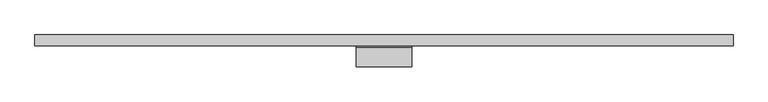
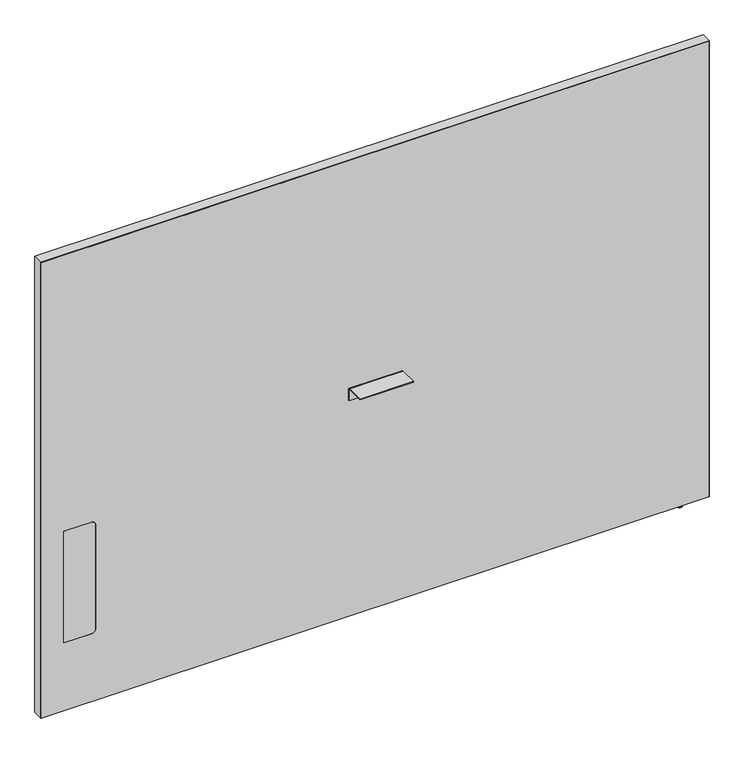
"""IFC4 building model written with IfcOpenShell, lengths in millimetres: furniture geometry, Steelcase - Answer Solution - Boundary Screen - Straight - Single Sided : 54H x 75W."""

from ifc_helpers import new_model, si_unit, point, frame, frame_2d, origin, place, context, project, spatial, polyline, circle_curve, ellipse_curve, trimmed, segment, composite_curve, outline, extrude, source, transform, mapped, element, save
from ifc_brep_helpers import plane_surface, cylinder_surface, revolved_surface, advanced_brep


def furniture_032afd88(model_context):
    return source(origin(), model_context, "Body", "SolidModel", [
        extrude(outline(composite_curve([segment(polyline([(-86.8398151, 696.4680019), (-86.8398151, 698.5), (-34.9450855, 698.5)]), True, "CONTINUOUS"), segment(trimmed(circle_curve(frame_2d((-34.9450855, 693.2447477)), 5.2552523), [point((-34.9450855, 698.5))], [point((-29.6898332, 693.2447477))], False, "CARTESIAN"), True, "CONTINUOUS"), segment(polyline([(-29.6898332, 693.2447477), (-29.6898332, 660.4), (-31.7218162, 660.4), (-31.7218162, 693.0058743)]), True, "CONTINUOUS"), segment(trimmed(circle_curve(frame_2d((-35.1839438, 693.0058743)), 3.4621276), [point((-31.7218162, 693.0058743))], [point((-35.1839438, 696.4680019))], True, "CARTESIAN"), True, "CONTINUOUS"), segment(polyline([(-35.1839438, 696.4680019), (-86.8398151, 696.4680019)]), True, "CONTINUOUS")], self_intersect=False)), frame((229.8191407, 0.0, 0.0), z_axis=(1.0, 0.0, 0.0), x_axis=(0.0, 1.0, 0.0)), (0.0, 0.0, 1.0), 152.4000969),
        advanced_brep(
        [(1181.3286488, -23.7588726, 9.9059849), (1181.3286488, -5.9309607, 9.9059849), (1181.3286488, -14.8449166, 9.9059849), (1181.3286488, -23.7588726, 2.9673238), (1181.3286488, -5.9309607, 2.9673238), (1181.3286488, -22.7915354, 2.9673238), (1181.3286488, -6.8982978, 2.9673238), (1181.3286488, -22.7915354, 1.6569081), (1181.3286488, -6.8982978, 1.6569081), (1181.3286488, -21.1346274, 0.0), (1181.3286488, -8.5552059, 0.0), (1181.3286488, -14.8449166, 0.0)],
        [
            (0, 1, circle_curve(frame((1181.3286488, -14.8449166, 9.9059849), z_axis=(0.0, 0.0, 1.0), x_axis=(0.0, 1.0, 0.0)), 8.913956)),
            (1, 2),
            (2, 0),
            (1, 0, circle_curve(frame((1181.3286488, -14.8449166, 9.9059849), z_axis=(0.0, 0.0, 1.0), x_axis=(0.0, 1.0, 0.0)), 8.913956)),
            (3, 4, circle_curve(frame((1181.3286488, -14.8449166, 2.9673238), z_axis=(0.0, 0.0, 1.0), x_axis=(0.0, 1.0, 0.0)), 8.913956)),
            (4, 1),
            (0, 3),
            (4, 3, circle_curve(frame((1181.3286488, -14.8449166, 2.9673238), z_axis=(0.0, 0.0, 1.0), x_axis=(0.0, 1.0, 0.0)), 8.913956)),
            (5, 6, circle_curve(frame((1181.3286488, -14.8449166, 2.9673238), z_axis=(0.0, 0.0, 1.0), x_axis=(0.0, 1.0, 0.0)), 7.9466188)),
            (6, 4),
            (3, 5),
            (6, 5, circle_curve(frame((1181.3286488, -14.8449166, 2.9673238), z_axis=(0.0, 0.0, 1.0), x_axis=(0.0, 1.0, 0.0)), 7.9466188)),
            (7, 8, circle_curve(frame((1181.3286488, -14.8449166, 1.6569081), z_axis=(0.0, 0.0, 1.0), x_axis=(0.0, 1.0, 0.0)), 7.9466188)),
            (8, 6),
            (5, 7),
            (8, 7, circle_curve(frame((1181.3286488, -14.8449166, 1.6569081), z_axis=(0.0, 0.0, 1.0), x_axis=(0.0, 1.0, 0.0)), 7.9466188)),
            (9, 10, circle_curve(frame((1181.3286488, -14.8449166, 0.0), z_axis=(0.0, 0.0, 1.0), x_axis=(0.0, 1.0, 0.0)), 6.2897107)),
            (10, 8, circle_curve(frame((1181.3286488, -8.5552059, 1.6569081), z_axis=(1.0, 0.0, 0.0), x_axis=(0.0, 1.0, 0.0)), 1.6569081)),
            (7, 9, circle_curve(frame((1181.3286488, -21.1346274, 1.6569081), z_axis=(1.0, 0.0, 0.0), x_axis=(0.0, -1.0, 0.0)), 1.6569081)),
            (10, 9, circle_curve(frame((1181.3286488, -14.8449166, 0.0), z_axis=(0.0, 0.0, 1.0), x_axis=(0.0, 1.0, 0.0)), 6.2897107)),
            (11, 10),
            (9, 11),
        ],
        [
            plane_surface(frame((1181.3286488, -14.8449166, 9.9059849), z_axis=(0.0, 0.0, 1.0), x_axis=(0.0, 1.0, 0.0))),
            cylinder_surface(frame((1181.3286488, -14.8449166, 9.9059849), z_axis=(0.0, 0.0, -1.0), x_axis=(0.0, 1.0, 0.0)), 8.913956),
            plane_surface(frame((1181.3286488, -14.8449166, 2.9673238), z_axis=(0.0, 0.0, -1.0), x_axis=(0.0, 1.0, 0.0))),
            cylinder_surface(frame((1181.3286488, -14.8449166, 9.9059849), z_axis=(0.0, 0.0, -1.0), x_axis=(0.0, 1.0, 0.0)), 7.9466188),
            revolved_surface(trimmed(ellipse_curve(frame((1181.3286488, -8.5552059, 1.6569081), z_axis=(-1.0, 0.0, 0.0), x_axis=(0.0, 1.0, 0.0)), 1.6569081, 1.6569081), [point((1181.3286488, -6.8982978, 1.6569081))], [point((1181.3286488, -8.5552059, 0.0))], True, "CARTESIAN"), (1181.3286488, -14.8449166, 9.9059849), (0.0, 0.0, -1.0)),
            plane_surface(frame((1181.3286488, -14.8449166, 0.0), z_axis=(0.0, 0.0, -1.0), x_axis=(0.0, 1.0, 0.0))),
        ],
        [
            (0, [[1, 2, 3]]),
            (0, [[4, -3, -2]]),
            (1, [[5, 6, -1, 7]]),
            (1, [[8, -7, -4, -6]]),
            (2, [[9, 10, -5, 11]]),
            (2, [[12, -11, -8, -10]]),
            (3, [[13, 14, -9, 15]]),
            (3, [[16, -15, -12, -14]]),
            (4, [[17, 18, -13, 19]]),
            (4, [[20, -19, -16, -18]]),
            (5, [[21, -17, 22]]),
            (5, [[-22, -20, -21]]),
        ],
    ),
        advanced_brep(
        [(1257.4780168, 0.0, 1381.542118), (1257.4780168, 0.0, 9.9059849), (-645.4902221, 0.0, 9.9059849), (-645.4902221, 0.0, 1381.542118), (1257.4780168, -29.6898332, 1381.542118), (-645.4902221, -29.6898332, 1381.542118), (-645.4902221, -29.6898332, 9.9059849), (1257.4780168, -29.6898332, 9.9059849), (-501.1463873, -29.6898332, 549.6162029), (-490.9863873, -29.6898332, 539.4562029), (-490.9863873, -29.6898332, 223.9362137), (-501.1463873, -29.6898332, 213.7762137), (-580.800285, -29.6898332, 213.7762137), (-580.800285, -29.6898332, 549.6162029), (-580.800285, -29.0550397, 549.6162029), (-501.1463873, -29.0550397, 549.6162029), (-580.800285, -29.0550397, 213.7762137), (-501.1463873, -29.0550397, 213.7762137), (-490.9863873, -29.0550397, 223.9362137), (-490.9863873, -29.0550397, 539.4562029)],
        [
            (0, 1),
            (1, 2),
            (2, 3),
            (3, 0),
            (4, 5),
            (5, 6),
            (6, 7),
            (7, 4),
            (8, 9, circle_curve(frame((-501.1463873, -29.6898332, 539.4562029), z_axis=(0.0, 1.0, 0.0), x_axis=(0.0, 0.0, 1.0)), 10.16)),
            (9, 10),
            (10, 11, circle_curve(frame((-501.1463873, -29.6898332, 223.9362137), z_axis=(0.0, 1.0, 0.0), x_axis=(0.0, 0.0, 1.0)), 10.16)),
            (11, 12),
            (12, 13),
            (13, 8),
            (0, 4),
            (7, 1),
            (6, 2),
            (5, 3),
            (13, 14),
            (14, 15),
            (15, 8),
            (12, 16),
            (16, 14),
            (11, 17),
            (17, 16),
            (10, 18),
            (18, 17, circle_curve(frame((-501.1463873, -29.0550397, 223.9362137), z_axis=(0.0, 1.0, 0.0), x_axis=(0.0, 0.0, 1.0)), 10.16)),
            (9, 19),
            (19, 18),
            (15, 19, circle_curve(frame((-501.1463873, -29.0550397, 539.4562029), z_axis=(0.0, 1.0, 0.0), x_axis=(0.0, 0.0, 1.0)), 10.16)),
        ],
        [
            plane_surface(frame((1257.4780168, 0.0, 1381.542118), z_axis=(0.0, 1.0, 0.0), x_axis=(0.0, 0.0, -1.0))),
            plane_surface(frame((1257.4780168, -29.6898332, 1381.542118), z_axis=(0.0, -1.0, 0.0), x_axis=(0.0, 0.0, 1.0))),
            plane_surface(frame((1257.4780168, 0.0, 1381.542118), z_axis=(1.0, 0.0, 0.0), x_axis=(0.0, -1.0, 0.0))),
            plane_surface(frame((1257.4780168, 0.0, 9.9059849), z_axis=(0.0, 0.0, -1.0), x_axis=(0.0, -1.0, 0.0))),
            plane_surface(frame((-645.4902221, 0.0, 9.9059849), z_axis=(-1.0, 0.0, 0.0), x_axis=(0.0, -1.0, 0.0))),
            plane_surface(frame((-645.4902221, 0.0, 1381.542118), z_axis=(0.0, 0.0, 1.0), x_axis=(0.0, -1.0, 0.0))),
            plane_surface(frame((-501.1463873, 0.0, 549.6162029), z_axis=(0.0, 0.0, -1.0), x_axis=(0.0, -1.0, 0.0))),
            plane_surface(frame((-580.800285, 0.0, 549.6162029), z_axis=(1.0, 0.0, 0.0), x_axis=(0.0, -1.0, 0.0))),
            plane_surface(frame((-580.800285, 0.0, 213.7762137), z_axis=(0.0, 0.0, 1.0), x_axis=(0.0, -1.0, 0.0))),
            revolved_surface(polyline([(-501.1463873, -29.6898332, 234.0962137), (-501.1463873, -29.0550397, 234.0962137)]), (-501.1463873, -29.6898332, 223.9362137), (0.0, -1.0, 0.0)),
            plane_surface(frame((-490.9863873, 0.0, 223.9362137), z_axis=(-1.0, 0.0, 0.0), x_axis=(0.0, -1.0, 0.0))),
            revolved_surface(polyline([(-501.1463873, -29.6898332, 549.6162029), (-501.1463873, -29.0550397, 549.6162029)]), (-501.1463873, -29.6898332, 539.4562029), (0.0, -1.0, 0.0)),
            plane_surface(frame((-490.9863873, -29.0550397, 629.172953), z_axis=(0.0, -1.0, 0.0), x_axis=(0.0, 0.0, 1.0))),
        ],
        [
            (0, [[1, 2, 3, 4]]),
            (1, [[5, 6, 7, 8], [9, 10, 11, 12, 13, 14]]),
            (2, [[-1, 15, -8, 16]]),
            (3, [[-2, -16, -7, 17]]),
            (4, [[-3, -17, -6, 18]]),
            (5, [[-4, -18, -5, -15]]),
            (6, [[-14, 19, 20, 21]]),
            (7, [[-13, 22, 23, -19]]),
            (8, [[-12, 24, 25, -22]]),
            (9, [[-11, 26, 27, -24]]),
            (10, [[-10, 28, 29, -26]]),
            (11, [[-9, -21, 30, -28]]),
            (12, [[-20, -23, -25, -27, -29, -30]]),
        ],
    ),
        extrude(outline(composite_curve([segment(polyline([(549.6162029, -501.1463873), (549.6162029, -580.800285), (213.7762137, -580.800285), (213.7762137, -501.1463873)]), True, "CONTINUOUS"), segment(trimmed(circle_curve(frame_2d((223.9362137, -501.1463873)), 10.16), [point((213.7762137, -501.1463873))], [point((223.9362137, -490.9863873))], False, "CARTESIAN"), True, "CONTINUOUS"), segment(polyline([(223.9362137, -490.9863873), (539.4562029, -490.9863873)]), True, "CONTINUOUS"), segment(trimmed(circle_curve(frame_2d((539.4562029, -501.1463873)), 10.16), [point((539.4562029, -490.9863873))], [point((549.6162029, -501.1463873))], False, "CARTESIAN"), True, "CONTINUOUS")], self_intersect=False)), frame((0.0, -29.6898332, 0.0), z_axis=(0.0, 1.0, 0.0), x_axis=(0.0, 0.0, 1.0)), (0.0, 0.0, 1.0), 0.6347935),
        extrude(outline(polyline([(1382.522, 1258.5191891), (1382.522, -646.4808109), (9.9059849, -646.4808109), (9.9059849, -645.4902221), (1381.542118, -645.4902221), (1381.542118, 1257.4780168), (9.9059849, 1257.4780168), (9.9059849, 1258.5191891), (1382.522, 1258.5191891)])), frame((0.0, -29.6898332, 0.0), z_axis=(0.0, 1.0, 0.0), x_axis=(0.0, 0.0, 1.0)), (0.0, 0.0, 1.0), 29.6898332),
    ])


if __name__ == "__main__":
    model = new_model("IFC4")
    model_context = context("Model", 3, world=origin())
    ifc_project = project(units=[si_unit("LENGTHUNIT", "METRE", prefix="MILLI")], contexts=[model_context])
    site = spatial("IfcSite", under=ifc_project)
    building = spatial("IfcBuilding", under=site)
    placement = place(None, origin())
    furniture_shape = furniture_032afd88(model_context)
    element("IfcFurniture", 1, ObjectType="Steelcase - Answer Solution - Boundary Screen - Straight - Single Sided : 54H x 75W", at=placement, inside=building, context=model_context, shape_type="MappedRepresentation", body=[
        mapped(furniture_shape, transform((0.0, 0.0, 0.0), x_axis=(1.0, 0.0, 0.0), y_axis=(0.0, 1.0, 0.0), z_axis=(0.0, 0.0, 1.0))),
    ])
    save(model, "model.ifc")
